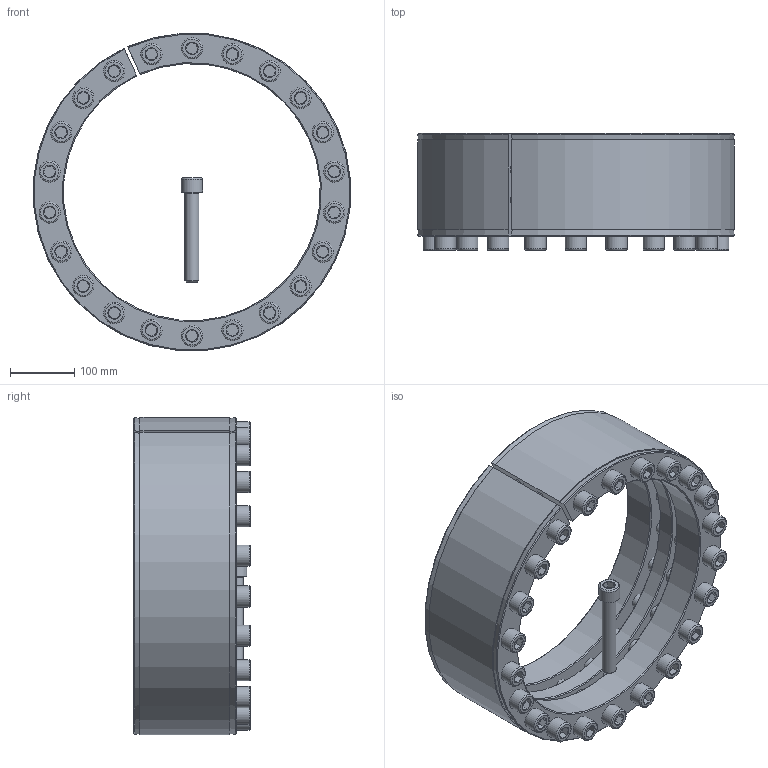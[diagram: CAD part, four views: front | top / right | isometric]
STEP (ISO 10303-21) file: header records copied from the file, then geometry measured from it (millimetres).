
FILE_DESCRIPTION( ( 'Unknown' ), '1' );
FILE_NAME( 'C:/Users/Frank/Eigene Daten/CAD/Solid Edge/KBK Karpstein/KBS Layout Baureihen/KBS 18/KBS 18 - 400 x 495.stp', 'Unknown', ( 'Unknown' ), ( 'Unknown' ), 'XStep 1.0', 'Unknown', ' ' );
FILE_SCHEMA( ( 'automotive_design' ) );
Length unit declared in the file: millimetre
Products named in the file (3): Assem1; ISO EN DIN 4762 M22x140; KBS 18 - 400 x 495
Bounding box: 493.38 x 182 x 493.61 mm (x, y, z)
Volume: 17331289.6 mm3; surface area: 2203493.7 mm2
Topology: 25 solids, 25 shells, 759 faces, 1585 edges, 968 vertices
Faces by surface type: plane 296, cylinder 232, cone 185, torus 46
Full cylindrical faces by diameter (mm): 18 x23, 19.294 x44, 22 x46, 24 x88, 33 x23
Entity records: 4078 total; most frequent: CARTESIAN_POINT 725, DIRECTION 664, ORIENTED_EDGE 478, EDGE_LOOP 326, AXIS2_PLACEMENT_3D 314, EDGE_CURVE 239, VERTEX_POINT 203, FACE_OUTER_BOUND 189
